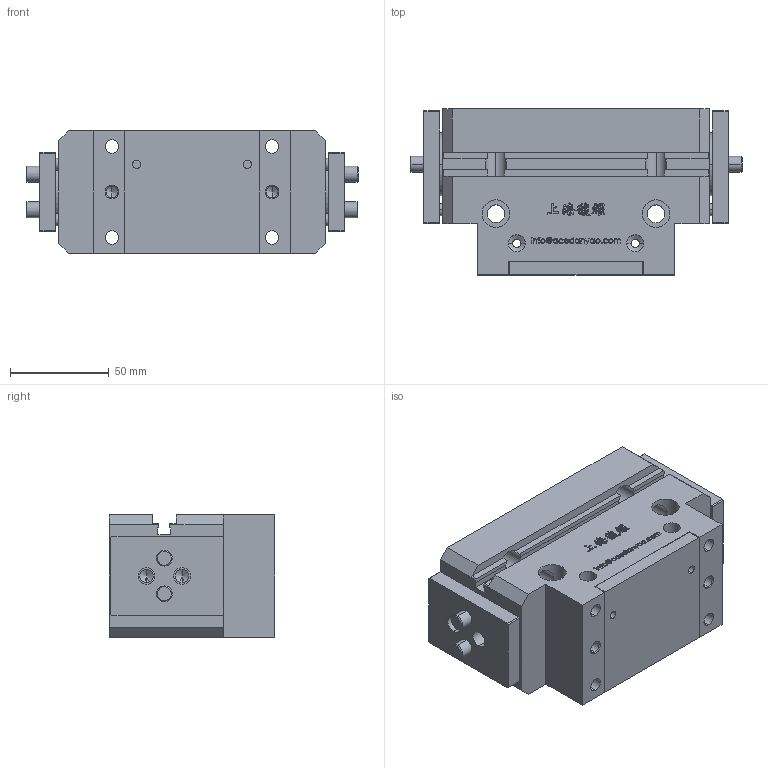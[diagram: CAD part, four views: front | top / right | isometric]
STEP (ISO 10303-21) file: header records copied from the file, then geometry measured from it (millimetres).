
FILE_DESCRIPTION (( 'STEP AP203' ), '1' );
FILE_NAME ('SRO-125-原始檔-組合-W106.04.21.STEP', '2017-04-20T09:16:26', ( 'DanyaoCAD' ), ( '' ), 'SwSTEP 2.0', 'SolidWorks 2016', '' );
FILE_SCHEMA (( 'CONFIG_CONTROL_DESIGN' ));
Length unit declared in the file: millimetre
Products named in the file (4): Corpo; Griffa; Fondello; SRO-125-原始檔-組合-W106.04.21
Assembly tree (4 placements, depth 2):
  SRO-125-原始檔-組合-W106.04.21
    Corpo
    Griffa  x2
    Fondello
Bounding box: 168 x 84 x 62 mm (x, y, z)
Volume: 621544.1 mm3; surface area: 118039.7 mm2
Topology: 4 solids, 4 shells, 1028 faces, 2838 edges, 1872 vertices
Faces by surface type: bspline 640, plane 254, cylinder 98, cone 36
Entity records: 48668 total; most frequent: CARTESIAN_POINT 27266, ORIENTED_EDGE 5464, EDGE_CURVE 2732, DIRECTION 2316, VERTEX_POINT 1814, B_SPLINE_CURVE_WITH_KNOTS 1304, LINE 1244, VECTOR 1244
